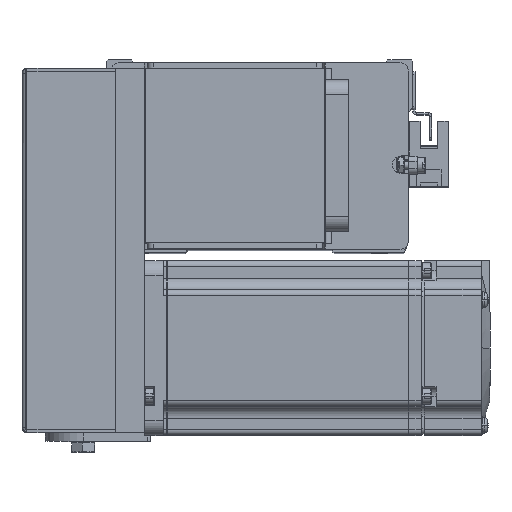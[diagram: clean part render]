
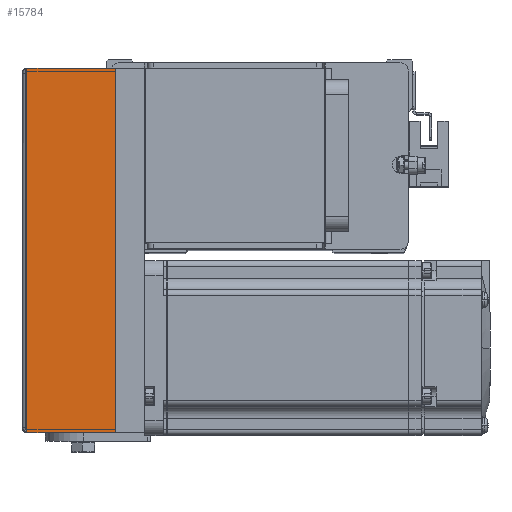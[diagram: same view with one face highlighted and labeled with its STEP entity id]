
A CAD part, top view. The second image highlights one B-rep face of the part: STEP entity #15784.
In plain terms, the highlighted planar face has unit normal (0, 0, 1) as drawn and (0, 0, -1) by its records, which use the part's own axes.
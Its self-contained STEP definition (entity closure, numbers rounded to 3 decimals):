
#4245 = DIRECTION ( 'NONE',  ( 1., 0., 0. ) ) ;
#4539 = CARTESIAN_POINT ( 'NONE',  ( 0., -30.8, -31. ) ) ;
#4827 = EDGE_CURVE ( 'NONE', #8678, #45070, #35629, .T. ) ;
#7108 = VERTEX_POINT ( 'NONE', #44127 ) ;
#8678 = VERTEX_POINT ( 'NONE', #42804 ) ;
#10046 = ORIENTED_EDGE ( 'NONE', *, *, #4827, .F. ) ;
#15784 = ADVANCED_FACE ( 'NONE', ( #28663 ), #42893, .F. ) ;
#16029 = LINE ( 'NONE', #30183, #30026 ) ;
#16469 = LINE ( 'NONE', #44583, #40172 ) ;
#17084 = EDGE_CURVE ( 'NONE', #24705, #7108, #16469, .T. ) ;
#17159 = VECTOR ( 'NONE', #4245, 1000. ) ;
#17198 = DIRECTION ( 'NONE',  ( 0., 1., 0. ) ) ;
#17984 = DIRECTION ( 'NONE',  ( 0., 1., 0. ) ) ;
#24705 = VERTEX_POINT ( 'NONE', #34956 ) ;
#25128 = CARTESIAN_POINT ( 'NONE',  ( 0., 0., -31. ) ) ;
#27120 = DIRECTION ( 'NONE',  ( 0., 1., 0. ) ) ;
#27253 = ORIENTED_EDGE ( 'NONE', *, *, #17084, .T. ) ;
#28456 = EDGE_CURVE ( 'NONE', #7108, #45070, #43497, .T. ) ;
#28663 = FACE_OUTER_BOUND ( 'NONE', #41929, .T. ) ;
#30026 = VECTOR ( 'NONE', #44380, 1000. ) ;
#30183 = CARTESIAN_POINT ( 'NONE',  ( 62.5, -30.3, -31. ) ) ;
#31288 = VECTOR ( 'NONE', #17984, 1000. ) ;
#32300 = ORIENTED_EDGE ( 'NONE', *, *, #32350, .F. ) ;
#32350 = EDGE_CURVE ( 'NONE', #24705, #8678, #16029, .T. ) ;
#34956 = CARTESIAN_POINT ( 'NONE',  ( -62.5, -30.3, -31. ) ) ;
#35629 = LINE ( 'NONE', #35858, #31288 ) ;
#35858 = CARTESIAN_POINT ( 'NONE',  ( 62.5, -30.3, -31. ) ) ;
#37299 = CARTESIAN_POINT ( 'NONE',  ( 62.5, 0., -31. ) ) ;
#39044 = DIRECTION ( 'NONE',  ( 0., 0., 1. ) ) ;
#39999 = ORIENTED_EDGE ( 'NONE', *, *, #28456, .T. ) ;
#40172 = VECTOR ( 'NONE', #27120, 1000. ) ;
#40943 = AXIS2_PLACEMENT_3D ( 'NONE', #4539, #39044, #17198 ) ;
#41929 = EDGE_LOOP ( 'NONE', ( #32300, #27253, #39999, #10046 ) ) ;
#42804 = CARTESIAN_POINT ( 'NONE',  ( 62.5, -30.3, -31. ) ) ;
#42893 = PLANE ( 'NONE',  #40943 ) ;
#43497 = LINE ( 'NONE', #25128, #17159 ) ;
#44127 = CARTESIAN_POINT ( 'NONE',  ( -62.5, 0., -31. ) ) ;
#44380 = DIRECTION ( 'NONE',  ( 1., 0., 0. ) ) ;
#44583 = CARTESIAN_POINT ( 'NONE',  ( -62.5, -30.3, -31. ) ) ;
#45070 = VERTEX_POINT ( 'NONE', #37299 ) ;
